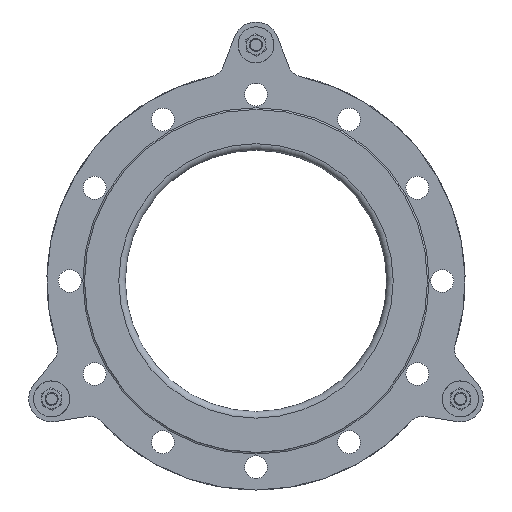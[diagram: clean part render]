
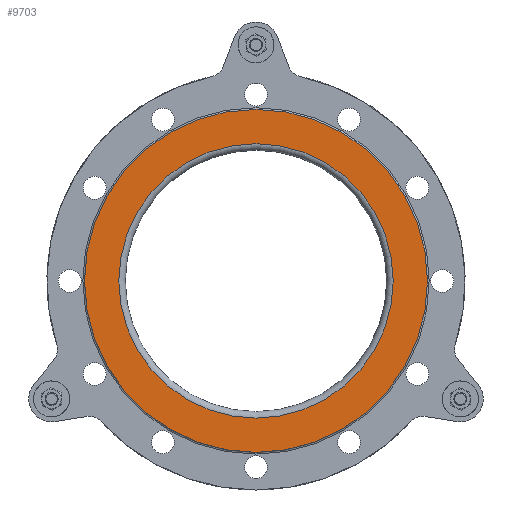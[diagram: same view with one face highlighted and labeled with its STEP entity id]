
A CAD part, front view. The second image highlights one B-rep face of the part: STEP entity #9703.
In plain terms, the highlighted planar face has unit normal (0, -1, 0).
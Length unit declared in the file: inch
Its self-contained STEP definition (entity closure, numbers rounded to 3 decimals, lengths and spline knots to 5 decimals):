
#1205=PLANE('',#10778);
#2170=FACE_BOUND('',#3480,.T.);
#2648=FACE_OUTER_BOUND('',#3479,.T.);
#3479=EDGE_LOOP('',(#8288));
#3480=EDGE_LOOP('',(#8289));
#4132=CIRCLE('',#10702,6.5625);
#4169=CIRCLE('',#10777,5.25);
#4899=VERTEX_POINT('',#16951);
#4936=VERTEX_POINT('',#17063);
#6050=EDGE_CURVE('',#4899,#4899,#4132,.T.);
#6087=EDGE_CURVE('',#4936,#4936,#4169,.T.);
#8288=ORIENTED_EDGE('',*,*,#6050,.F.);
#8289=ORIENTED_EDGE('',*,*,#6087,.T.);
#9703=ADVANCED_FACE('',(#2648,#2170),#1205,.T.);
#10702=AXIS2_PLACEMENT_3D('',#16952,#12914,#12915);
#10777=AXIS2_PLACEMENT_3D('',#17064,#13064,#13065);
#10778=AXIS2_PLACEMENT_3D('',#17065,#13066,#13067);
#12914=DIRECTION('center_axis',(0.,1.,0.));
#12915=DIRECTION('ref_axis',(1.,0.,0.));
#13064=DIRECTION('center_axis',(0.,1.,0.));
#13065=DIRECTION('ref_axis',(1.,0.,0.));
#13066=DIRECTION('center_axis',(0.,-1.,0.));
#13067=DIRECTION('ref_axis',(-1.,0.,0.));
#16951=CARTESIAN_POINT('',(4.51654,-5.8125,-6.5625));
#16952=CARTESIAN_POINT('Origin',(4.51654,-5.8125,0.));
#17063=CARTESIAN_POINT('',(4.51654,-5.8125,-5.25));
#17064=CARTESIAN_POINT('Origin',(4.51654,-5.8125,0.));
#17065=CARTESIAN_POINT('Origin',(4.51654,-5.8125,-6.5625));
